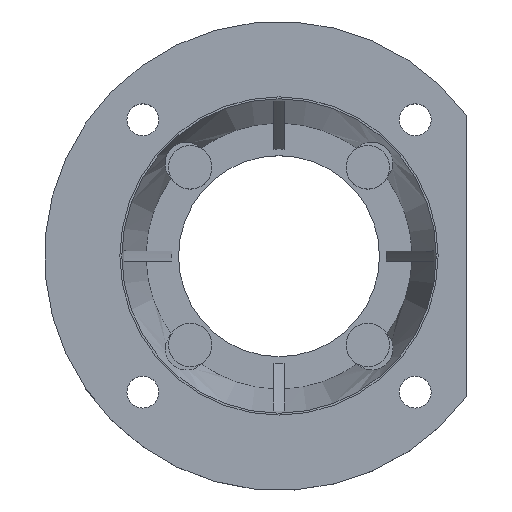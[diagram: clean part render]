
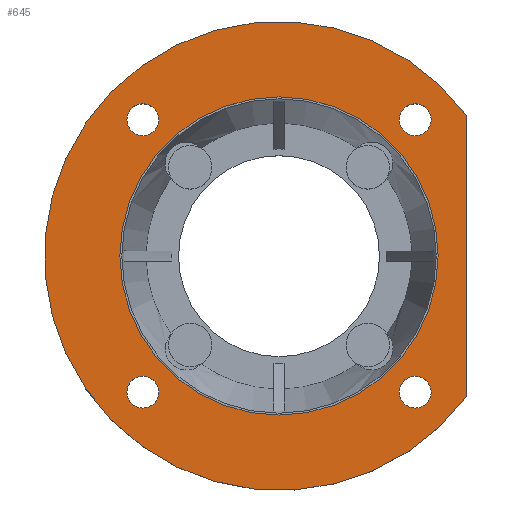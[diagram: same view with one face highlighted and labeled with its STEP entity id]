
A CAD part, top view. The second image highlights one B-rep face of the part: STEP entity #645.
In plain terms, the highlighted planar face has unit normal (0, 0, 1) as drawn and (1, 0, 0) by its records, which use the part's own axes.
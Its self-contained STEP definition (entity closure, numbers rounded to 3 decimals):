
#22=FACE_BOUND('',#800,.T.);
#23=FACE_BOUND('',#801,.T.);
#24=FACE_BOUND('',#802,.T.);
#25=FACE_BOUND('',#803,.T.);
#26=FACE_BOUND('',#804,.T.);
#645=ADVANCED_FACE('',(#720,#22,#23,#24,#25,#26),#1965,.T.);
#720=FACE_OUTER_BOUND('',#799,.T.);
#799=EDGE_LOOP('',(#930,#931));
#800=EDGE_LOOP('',(#932,#933));
#801=EDGE_LOOP('',(#934,#935));
#802=EDGE_LOOP('',(#936,#937));
#803=EDGE_LOOP('',(#938,#939));
#804=EDGE_LOOP('',(#940,#941));
#930=ORIENTED_EDGE('',*,*,#1316,.F.);
#931=ORIENTED_EDGE('',*,*,#1313,.F.);
#932=ORIENTED_EDGE('',*,*,#1478,.F.);
#933=ORIENTED_EDGE('',*,*,#1447,.F.);
#934=ORIENTED_EDGE('',*,*,#1476,.F.);
#935=ORIENTED_EDGE('',*,*,#1443,.F.);
#936=ORIENTED_EDGE('',*,*,#1474,.F.);
#937=ORIENTED_EDGE('',*,*,#1439,.F.);
#938=ORIENTED_EDGE('',*,*,#1472,.F.);
#939=ORIENTED_EDGE('',*,*,#1435,.F.);
#940=ORIENTED_EDGE('',*,*,#1459,.F.);
#941=ORIENTED_EDGE('',*,*,#1386,.F.);
#1313=EDGE_CURVE('',#1823,#1824,#1479,.T.);
#1316=EDGE_CURVE('',#1824,#1823,#1709,.T.);
#1386=EDGE_CURVE('',#1825,#1900,#1518,.T.);
#1435=EDGE_CURVE('',#1829,#1907,#1548,.T.);
#1439=EDGE_CURVE('',#1828,#1908,#1551,.T.);
#1443=EDGE_CURVE('',#1827,#1909,#1554,.T.);
#1447=EDGE_CURVE('',#1826,#1910,#1557,.T.);
#1459=EDGE_CURVE('',#1900,#1825,#1565,.T.);
#1472=EDGE_CURVE('',#1907,#1829,#1572,.T.);
#1474=EDGE_CURVE('',#1908,#1828,#1573,.T.);
#1476=EDGE_CURVE('',#1909,#1827,#1574,.T.);
#1478=EDGE_CURVE('',#1910,#1826,#1575,.T.);
#1479=TRIMMED_CURVE($,#1576,(#3122),(#3123),.T.,.CARTESIAN.);
#1518=TRIMMED_CURVE($,#1615,(#3463),(#3464),.T.,.CARTESIAN.);
#1548=TRIMMED_CURVE($,#1645,(#3617),(#3618),.T.,.CARTESIAN.);
#1551=TRIMMED_CURVE($,#1648,(#3628),(#3629),.T.,.CARTESIAN.);
#1554=TRIMMED_CURVE($,#1651,(#3639),(#3640),.T.,.CARTESIAN.);
#1557=TRIMMED_CURVE($,#1654,(#3650),(#3651),.T.,.CARTESIAN.);
#1565=TRIMMED_CURVE($,#1662,(#3682),(#3683),.T.,.CARTESIAN.);
#1572=TRIMMED_CURVE($,#1669,(#3715),(#3716),.T.,.CARTESIAN.);
#1573=TRIMMED_CURVE($,#1670,(#3720),(#3721),.T.,.CARTESIAN.);
#1574=TRIMMED_CURVE($,#1671,(#3725),(#3726),.T.,.CARTESIAN.);
#1575=TRIMMED_CURVE($,#1672,(#3730),(#3731),.T.,.CARTESIAN.);
#1576=CIRCLE('',#2224,70.);
#1615=CIRCLE('',#2263,47.5);
#1645=CIRCLE('',#2293,4.75);
#1648=CIRCLE('',#2296,4.75);
#1651=CIRCLE('',#2299,4.75);
#1654=CIRCLE('',#2302,4.75);
#1662=CIRCLE('',#2310,47.5);
#1669=CIRCLE('',#2317,4.75);
#1670=CIRCLE('',#2318,4.75);
#1671=CIRCLE('',#2319,4.75);
#1672=CIRCLE('',#2320,4.75);
#1709=B_SPLINE_CURVE_WITH_KNOTS('',1,(#3129,#3130),.UNSPECIFIED.,.F.,.F.,
(2,2),(-84.,0.),.UNSPECIFIED.);
#1823=VERTEX_POINT('',#2931);
#1824=VERTEX_POINT('',#2932);
#1825=VERTEX_POINT('',#2933);
#1826=VERTEX_POINT('',#2934);
#1827=VERTEX_POINT('',#2935);
#1828=VERTEX_POINT('',#2936);
#1829=VERTEX_POINT('',#2937);
#1900=VERTEX_POINT('',#3008);
#1907=VERTEX_POINT('',#3015);
#1908=VERTEX_POINT('',#3016);
#1909=VERTEX_POINT('',#3017);
#1910=VERTEX_POINT('',#3018);
#1965=PLANE('',#2173);
#2173=AXIS2_PLACEMENT_3D('',#2598,#2337,$);
#2224=AXIS2_PLACEMENT_3D($,#3121,#2388,#2389);
#2263=AXIS2_PLACEMENT_3D($,#3462,#2466,#2467);
#2293=AXIS2_PLACEMENT_3D($,#3616,#2526,#2527);
#2296=AXIS2_PLACEMENT_3D($,#3627,#2532,#2533);
#2299=AXIS2_PLACEMENT_3D($,#3638,#2538,#2539);
#2302=AXIS2_PLACEMENT_3D($,#3649,#2544,#2545);
#2310=AXIS2_PLACEMENT_3D($,#3681,#2560,#2561);
#2317=AXIS2_PLACEMENT_3D($,#3714,#2574,#2575);
#2318=AXIS2_PLACEMENT_3D($,#3719,#2576,#2577);
#2319=AXIS2_PLACEMENT_3D($,#3724,#2578,#2579);
#2320=AXIS2_PLACEMENT_3D($,#3729,#2580,#2581);
#2337=DIRECTION('',(1.,0.,0.));
#2388=DIRECTION('',(-1.,0.,0.));
#2389=DIRECTION('',(0.,0.6,0.8));
#2466=DIRECTION('',(1.,0.,0.));
#2467=DIRECTION('',(0.,0.,-1.));
#2526=DIRECTION('',(1.,0.,0.));
#2527=DIRECTION('',(0.,0.,1.));
#2532=DIRECTION('',(1.,0.,0.));
#2533=DIRECTION('',(0.,0.,1.));
#2538=DIRECTION('',(1.,0.,0.));
#2539=DIRECTION('',(0.,0.,1.));
#2544=DIRECTION('',(1.,0.,0.));
#2545=DIRECTION('',(0.,0.,1.));
#2560=DIRECTION('',(1.,0.,0.));
#2561=DIRECTION('',(0.,0.,1.));
#2574=DIRECTION('',(1.,0.,0.));
#2575=DIRECTION('',(0.,0.,-1.));
#2576=DIRECTION('',(1.,0.,0.));
#2577=DIRECTION('',(0.,0.,-1.));
#2578=DIRECTION('',(1.,0.,0.));
#2579=DIRECTION('',(0.,0.,-1.));
#2580=DIRECTION('',(1.,0.,0.));
#2581=DIRECTION('',(0.,0.,-1.));
#2598=CARTESIAN_POINT('',(43.5,-98.895,-82.66));
#2931=CARTESIAN_POINT('',(43.5,42.,56.));
#2932=CARTESIAN_POINT('',(43.5,-42.,56.));
#2933=CARTESIAN_POINT('',(43.5,0.,-47.5));
#2934=CARTESIAN_POINT('',(43.5,-40.659,45.409));
#2935=CARTESIAN_POINT('',(43.5,-40.659,-35.909));
#2936=CARTESIAN_POINT('',(43.5,40.659,-35.909));
#2937=CARTESIAN_POINT('',(43.5,40.659,45.409));
#3008=CARTESIAN_POINT('',(43.5,0.,47.5));
#3015=CARTESIAN_POINT('',(43.5,40.659,35.909));
#3016=CARTESIAN_POINT('',(43.5,40.659,-45.409));
#3017=CARTESIAN_POINT('',(43.5,-40.659,-45.409));
#3018=CARTESIAN_POINT('',(43.5,-40.659,35.909));
#3121=CARTESIAN_POINT('',(43.5,0.,0.));
#3122=CARTESIAN_POINT('',(43.5,42.,56.));
#3123=CARTESIAN_POINT('',(43.5,-42.,56.));
#3129=CARTESIAN_POINT('',(43.5,-42.,56.));
#3130=CARTESIAN_POINT('',(43.5,42.,56.));
#3462=CARTESIAN_POINT('',(43.5,0.,0.));
#3463=CARTESIAN_POINT('',(43.5,0.,-47.5));
#3464=CARTESIAN_POINT('',(43.5,0.,47.5));
#3616=CARTESIAN_POINT('',(43.5,40.659,40.659));
#3617=CARTESIAN_POINT('',(43.5,40.659,45.409));
#3618=CARTESIAN_POINT('',(43.5,40.659,35.909));
#3627=CARTESIAN_POINT('',(43.5,40.659,-40.659));
#3628=CARTESIAN_POINT('',(43.5,40.659,-35.909));
#3629=CARTESIAN_POINT('',(43.5,40.659,-45.409));
#3638=CARTESIAN_POINT('',(43.5,-40.659,-40.659));
#3639=CARTESIAN_POINT('',(43.5,-40.659,-35.909));
#3640=CARTESIAN_POINT('',(43.5,-40.659,-45.409));
#3649=CARTESIAN_POINT('',(43.5,-40.659,40.659));
#3650=CARTESIAN_POINT('',(43.5,-40.659,45.409));
#3651=CARTESIAN_POINT('',(43.5,-40.659,35.909));
#3681=CARTESIAN_POINT('',(43.5,0.,0.));
#3682=CARTESIAN_POINT('',(43.5,0.,47.5));
#3683=CARTESIAN_POINT('',(43.5,0.,-47.5));
#3714=CARTESIAN_POINT('',(43.5,40.659,40.659));
#3715=CARTESIAN_POINT('',(43.5,40.659,35.909));
#3716=CARTESIAN_POINT('',(43.5,40.659,45.409));
#3719=CARTESIAN_POINT('',(43.5,40.659,-40.659));
#3720=CARTESIAN_POINT('',(43.5,40.659,-45.409));
#3721=CARTESIAN_POINT('',(43.5,40.659,-35.909));
#3724=CARTESIAN_POINT('',(43.5,-40.659,-40.659));
#3725=CARTESIAN_POINT('',(43.5,-40.659,-45.409));
#3726=CARTESIAN_POINT('',(43.5,-40.659,-35.909));
#3729=CARTESIAN_POINT('',(43.5,-40.659,40.659));
#3730=CARTESIAN_POINT('',(43.5,-40.659,35.909));
#3731=CARTESIAN_POINT('',(43.5,-40.659,45.409));
